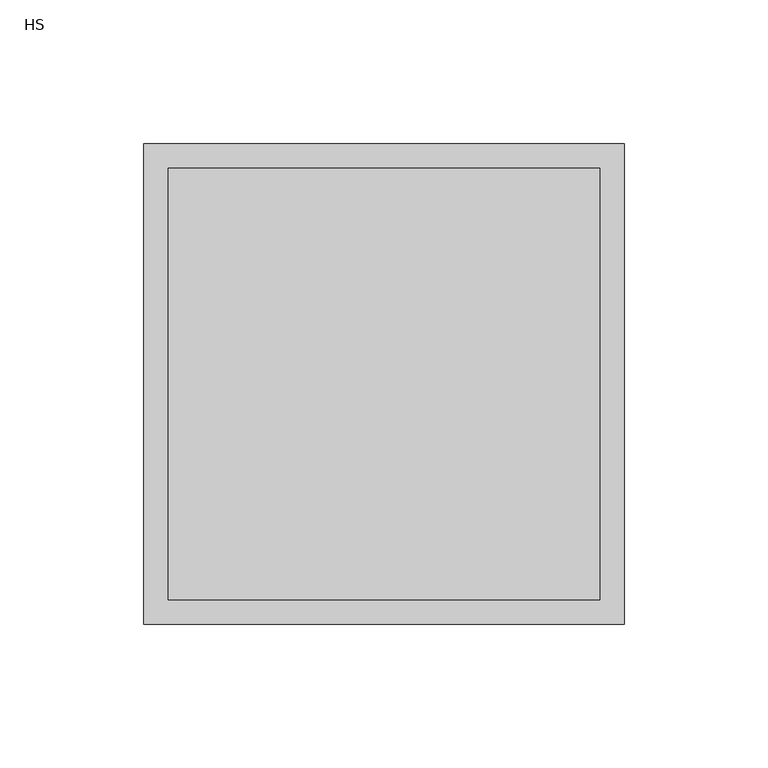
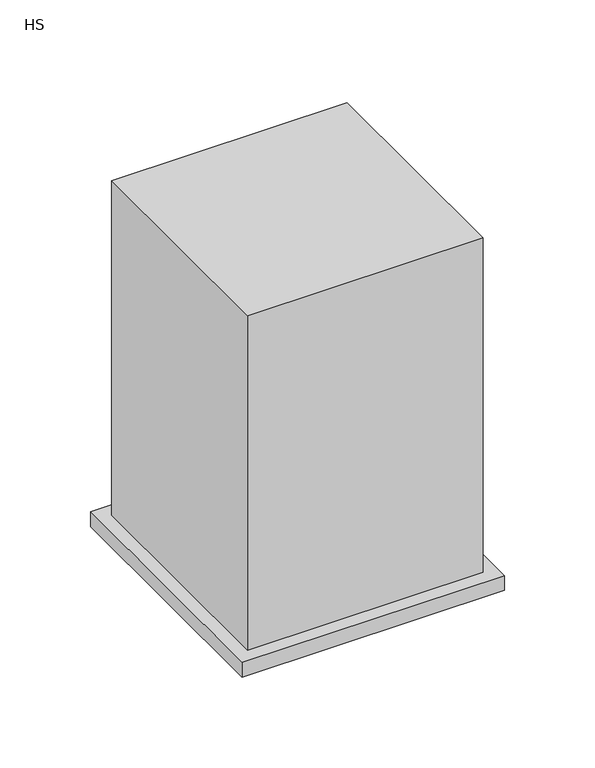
"""IFC4 building model written with IfcOpenShell, lengths in millimetres: air terminal geometry, 041_ユニバーサル形吸込口 : HS."""

from ifc_helpers import new_model, si_unit, frame, origin, origin_with_axes, place, context, project, spatial, polyline, outline, extrude, source, transform, mapped, element, save


def hs_a409e458(model_context):
    return source(origin(), model_context, "Body", "SweptSolid", [
        extrude(outline(polyline([(75.0, 75.0), (75.0, -75.0), (-75.0, -75.0), (-75.0, 75.0), (75.0, 75.0)])), origin_with_axes(), (0.0, 0.0, 1.0), 225.0),
        extrude(outline(polyline([(83.5, -83.5), (-83.5, -83.5), (-83.5, 83.5), (83.5, 83.5), (83.5, -83.5)]), holes=[polyline([(75.0, -75.0), (75.0, 75.0), (-75.0, 75.0), (-75.0, -75.0), (75.0, -75.0)])]), frame((0.0, 0.0, -10.0), z_axis=(0.0, 0.0, 1.0), x_axis=(1.0, 0.0, 0.0)), (0.0, 0.0, 1.0), 10.0),
    ])


if __name__ == "__main__":
    model = new_model("IFC4")
    model_context = context("Model", 3, world=origin())
    ifc_project = project(units=[si_unit("LENGTHUNIT", "METRE", prefix="MILLI")], contexts=[model_context])
    site = spatial("IfcSite", under=ifc_project)
    building = spatial("IfcBuilding", under=site)
    placement = place(None, origin())
    hs_shape = hs_a409e458(model_context)
    element("IfcAirTerminal", 1, ObjectType="041_ユニバーサル形吸込口 : HS", at=placement, inside=building, context=model_context, shape_type="MappedRepresentation", body=[
        mapped(hs_shape, transform((0.0, 0.0, 0.0), x_axis=(1.0, 0.0, 0.0), y_axis=(0.0, 1.0, 0.0), z_axis=(0.0, 0.0, 1.0))),
    ])
    save(model, "model.ifc")
